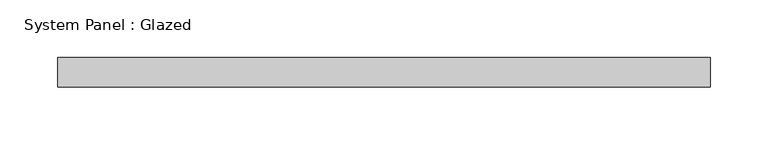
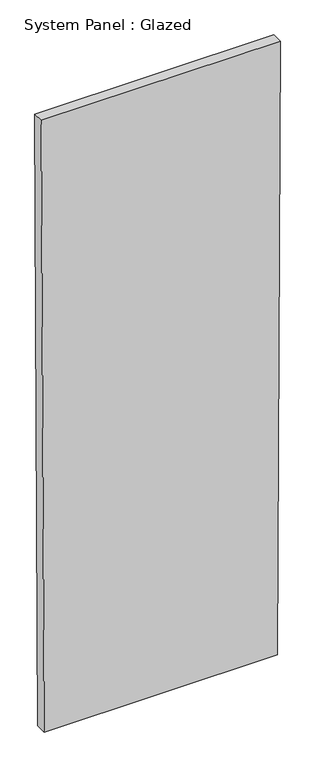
"""IFC4 building model written with IfcOpenShell, lengths in millimetres: plate geometry, System Panel : Glazed."""

from ifc_helpers import new_model, si_unit, frame, origin, place, context, project, spatial, polyline, outline, extrude, source, transform, mapped, element, save


def system_panel_glazed_885a54fe(model_context):
    return source(origin(), model_context, "Body", "SweptSolid", [
        extrude(outline(polyline([(0.0, -274.5448419), (0.0, 274.5448419), (1523.9833681, 281.6648053), (1523.9833681, -281.6648053), (0.0, -274.5448419)])), frame((0.0, 19.05, 0.0), z_axis=(0.0, 1.0, 0.0), x_axis=(0.0, 0.0, 1.0)), (0.0, 0.0, 1.0), 25.4),
    ])


if __name__ == "__main__":
    model = new_model("IFC4")
    model_context = context("Model", 3, world=origin())
    ifc_project = project(units=[si_unit("LENGTHUNIT", "METRE", prefix="MILLI")], contexts=[model_context])
    site = spatial("IfcSite", under=ifc_project)
    building = spatial("IfcBuilding", under=site)
    placement = place(None, origin())
    system_panel_glazed_shape = system_panel_glazed_885a54fe(model_context)
    element("IfcPlate", 1, ObjectType="System Panel : Glazed", at=placement, inside=building, context=model_context, shape_type="MappedRepresentation", body=[
        mapped(system_panel_glazed_shape, transform((0.0, 0.0, 0.0), x_axis=(1.0, 0.0, 0.0), y_axis=(0.0, 1.0, 0.0), z_axis=(0.0, 0.0, 1.0))),
    ])
    save(model, "model.ifc")
